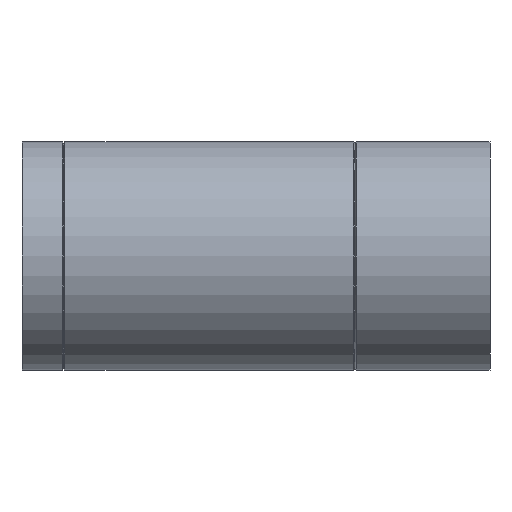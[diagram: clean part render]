
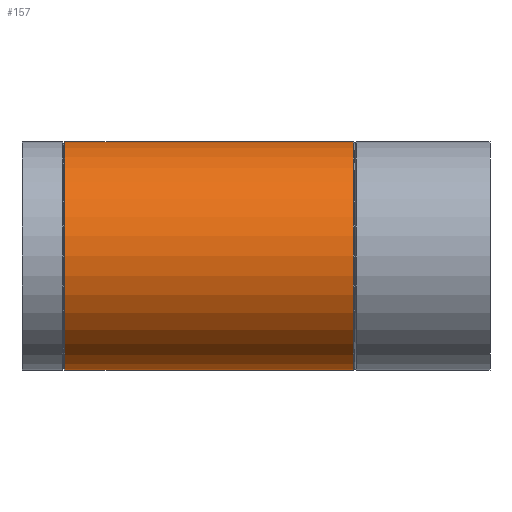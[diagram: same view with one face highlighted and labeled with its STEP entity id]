
A CAD part, left-side view. The second image highlights one B-rep face of the part: STEP entity #157.
In plain terms, the highlighted cylindrical face has radius 55 mm (diameter 110 mm), a full revolution.
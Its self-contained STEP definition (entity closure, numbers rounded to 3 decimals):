
#16=B_SPLINE_CURVE_WITH_KNOTS($,3,(#267,#268,#269,#270,#271,#272,#273,#274,
#275,#276,#277,#278,#279,#280,#281,#282,#283,#284,#285,#286,#287,#288,#289,
#290,#291,#292,#293,#294,#295,#296,#297,#298,#299,#300,#301,#302,#303,#304,
#305,#306,#307,#308,#309,#310,#311,#312,#313,#314,#315,#316,#317,#318,#319,
#320,#321,#322,#323,#324,#325,#326,#327,#328,#329,#330,#331,#332),
 .UNSPECIFIED.,.T.,.F.,(4,2,2,2,2,2,2,2,2,2,2,2,2,2,2,2,2,2,2,2,2,2,2,2,
2,2,2,2,2,2,2,2,4),(0.,0.746,1.492,2.239,
2.985,3.72,4.455,5.191,5.926,
6.659,7.392,8.125,8.859,9.607,
10.355,11.103,11.852,12.588,13.325,
14.061,14.798,15.53,16.263,16.996,
17.728,18.461,19.194,19.926,20.659,
21.395,22.132,22.868,23.605),
 .UNSPECIFIED.);
#19=CYLINDRICAL_SURFACE($,#180,55.);
#29=FACE_BOUND($,#63,.T.);
#30=FACE_BOUND($,#64,.T.);
#48=FACE_OUTER_BOUND($,#62,.T.);
#62=EDGE_LOOP($,(#130));
#63=EDGE_LOOP($,(#131));
#64=EDGE_LOOP($,(#132));
#81=CIRCLE($,#170,55.);
#86=CIRCLE($,#179,55.);
#93=VERTEX_POINT($,#249);
#98=VERTEX_POINT($,#263);
#99=VERTEX_POINT($,#266);
#107=EDGE_CURVE($,#93,#93,#81,.T.);
#112=EDGE_CURVE($,#98,#98,#86,.T.);
#113=EDGE_CURVE($,#99,#99,#16,.T.);
#130=ORIENTED_EDGE($,*,*,#107,.T.);
#131=ORIENTED_EDGE($,*,*,#113,.T.);
#132=ORIENTED_EDGE($,*,*,#112,.T.);
#157=ADVANCED_FACE($,(#48,#29,#30),#19,.T.);
#170=AXIS2_PLACEMENT_3D($,#250,#199,#200);
#179=AXIS2_PLACEMENT_3D($,#264,#217,#218);
#180=AXIS2_PLACEMENT_3D($,#265,#219,#220);
#199=DIRECTION('center_axis',(0.,-1.,0.));
#200=DIRECTION('ref_axis',(1.,0.,0.));
#217=DIRECTION('center_axis',(0.,1.,0.));
#218=DIRECTION('ref_axis',(1.,0.,0.));
#219=DIRECTION('center_axis',(0.,1.,0.));
#220=DIRECTION('ref_axis',(1.,0.,0.));
#249=CARTESIAN_POINT('',(55.,204.365,0.));
#250=CARTESIAN_POINT('Origin',(0.,204.365,0.));
#263=CARTESIAN_POINT('',(55.,65.635,0.));
#264=CARTESIAN_POINT('Origin',(0.,65.635,0.));
#265=CARTESIAN_POINT('Origin',(0.,0.,0.));
#266=CARTESIAN_POINT('',(40.234,136.054,37.5));
#267=CARTESIAN_POINT('Ctrl Pts',(40.234,136.054,37.5));
#268=CARTESIAN_POINT('Ctrl Pts',(40.234,138.541,37.5));
#269=CARTESIAN_POINT('Ctrl Pts',(40.471,141.062,37.25));
#270=CARTESIAN_POINT('Ctrl Pts',(41.368,146.005,36.252));
#271=CARTESIAN_POINT('Ctrl Pts',(42.024,148.427,35.504));
#272=CARTESIAN_POINT('Ctrl Pts',(43.581,153.034,33.574));
#273=CARTESIAN_POINT('Ctrl Pts',(44.482,155.225,32.389));
#274=CARTESIAN_POINT('Ctrl Pts',(46.337,159.275,29.675));
#275=CARTESIAN_POINT('Ctrl Pts',(47.29,161.135,28.145));
#276=CARTESIAN_POINT('Ctrl Pts',(49.069,164.416,24.912));
#277=CARTESIAN_POINT('Ctrl Pts',(49.965,165.965,23.091));
#278=CARTESIAN_POINT('Ctrl Pts',(51.626,168.731,19.09));
#279=CARTESIAN_POINT('Ctrl Pts',(52.39,169.948,16.91));
#280=CARTESIAN_POINT('Ctrl Pts',(53.658,171.927,12.311));
#281=CARTESIAN_POINT('Ctrl Pts',(54.161,172.691,9.887));
#282=CARTESIAN_POINT('Ctrl Pts',(54.833,173.704,4.957));
#283=CARTESIAN_POINT('Ctrl Pts',(55.,173.953,2.451));
#284=CARTESIAN_POINT('Ctrl Pts',(55.,173.953,-2.444));
#285=CARTESIAN_POINT('Ctrl Pts',(54.834,173.706,-4.944));
#286=CARTESIAN_POINT('Ctrl Pts',(54.166,172.698,-9.861));
#287=CARTESIAN_POINT('Ctrl Pts',(53.664,171.937,-12.28));
#288=CARTESIAN_POINT('Ctrl Pts',(52.403,169.968,-16.869));
#289=CARTESIAN_POINT('Ctrl Pts',(51.642,168.757,-19.046));
#290=CARTESIAN_POINT('Ctrl Pts',(49.988,166.004,-23.041));
#291=CARTESIAN_POINT('Ctrl Pts',(49.095,164.462,-24.86));
#292=CARTESIAN_POINT('Ctrl Pts',(47.317,161.187,-28.1));
#293=CARTESIAN_POINT('Ctrl Pts',(46.361,159.325,-29.637));
#294=CARTESIAN_POINT('Ctrl Pts',(44.501,155.269,-32.364));
#295=CARTESIAN_POINT('Ctrl Pts',(43.596,153.074,-33.555));
#296=CARTESIAN_POINT('Ctrl Pts',(42.032,148.457,-35.494));
#297=CARTESIAN_POINT('Ctrl Pts',(41.373,146.03,-36.245));
#298=CARTESIAN_POINT('Ctrl Pts',(40.472,141.076,-37.248));
#299=CARTESIAN_POINT('Ctrl Pts',(40.234,138.548,-37.5));
#300=CARTESIAN_POINT('Ctrl Pts',(40.234,133.599,-37.5));
#301=CARTESIAN_POINT('Ctrl Pts',(40.465,131.108,-37.256));
#302=CARTESIAN_POINT('Ctrl Pts',(41.351,126.233,-36.27));
#303=CARTESIAN_POINT('Ctrl Pts',(42.002,123.846,-35.53));
#304=CARTESIAN_POINT('Ctrl Pts',(43.554,119.317,-33.609));
#305=CARTESIAN_POINT('Ctrl Pts',(44.454,117.169,-32.427));
#306=CARTESIAN_POINT('Ctrl Pts',(46.309,113.207,-29.719));
#307=CARTESIAN_POINT('Ctrl Pts',(47.262,111.393,-28.191));
#308=CARTESIAN_POINT('Ctrl Pts',(49.05,108.186,-24.951));
#309=CARTESIAN_POINT('Ctrl Pts',(49.953,106.672,-23.118));
#310=CARTESIAN_POINT('Ctrl Pts',(51.624,103.976,-19.097));
#311=CARTESIAN_POINT('Ctrl Pts',(52.391,102.795,-16.908));
#312=CARTESIAN_POINT('Ctrl Pts',(53.661,100.878,-12.298));
#313=CARTESIAN_POINT('Ctrl Pts',(54.164,100.141,-9.871));
#314=CARTESIAN_POINT('Ctrl Pts',(54.834,99.166,-4.944));
#315=CARTESIAN_POINT('Ctrl Pts',(55.,98.927,-2.442));
#316=CARTESIAN_POINT('Ctrl Pts',(55.,98.927,2.442));
#317=CARTESIAN_POINT('Ctrl Pts',(54.834,99.166,4.944));
#318=CARTESIAN_POINT('Ctrl Pts',(54.164,100.141,9.871));
#319=CARTESIAN_POINT('Ctrl Pts',(53.661,100.878,12.298));
#320=CARTESIAN_POINT('Ctrl Pts',(52.391,102.795,16.908));
#321=CARTESIAN_POINT('Ctrl Pts',(51.624,103.976,19.097));
#322=CARTESIAN_POINT('Ctrl Pts',(49.953,106.672,23.118));
#323=CARTESIAN_POINT('Ctrl Pts',(49.05,108.186,24.951));
#324=CARTESIAN_POINT('Ctrl Pts',(47.262,111.393,28.191));
#325=CARTESIAN_POINT('Ctrl Pts',(46.309,113.207,29.719));
#326=CARTESIAN_POINT('Ctrl Pts',(44.454,117.169,32.427));
#327=CARTESIAN_POINT('Ctrl Pts',(43.554,119.317,33.609));
#328=CARTESIAN_POINT('Ctrl Pts',(42.002,123.846,35.53));
#329=CARTESIAN_POINT('Ctrl Pts',(41.351,126.233,36.27));
#330=CARTESIAN_POINT('Ctrl Pts',(40.465,131.108,37.256));
#331=CARTESIAN_POINT('Ctrl Pts',(40.234,133.599,37.5));
#332=CARTESIAN_POINT('Ctrl Pts',(40.234,136.054,37.5));
